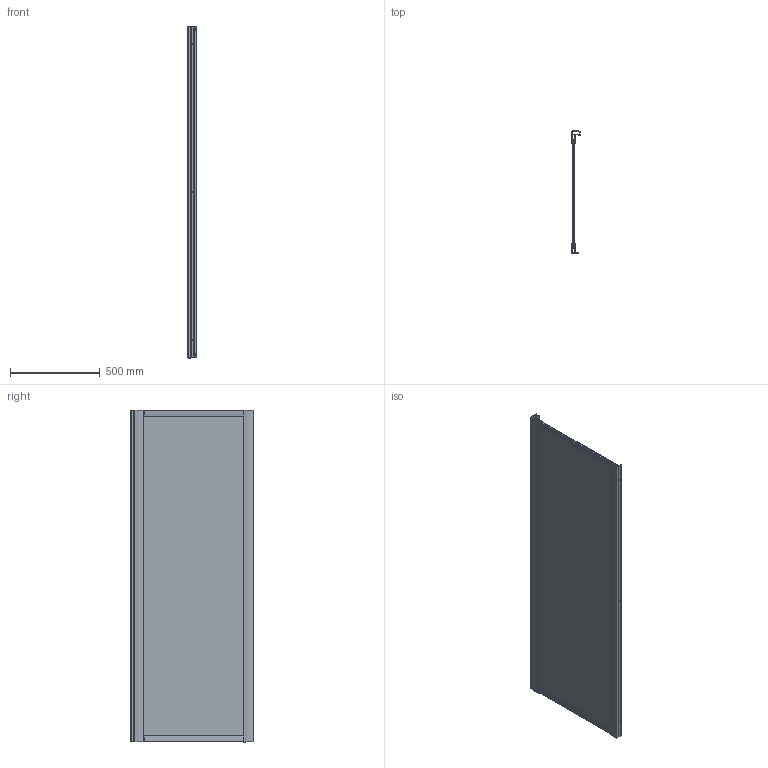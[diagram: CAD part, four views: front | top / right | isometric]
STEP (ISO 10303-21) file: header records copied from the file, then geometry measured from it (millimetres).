
FILE_DESCRIPTION(/* description */ ('INSERTO GIUNZIONE BINARIO'),/* implementation_level */ '2;1');
FILE_NAME(/* name */ 'C:\Users\benassi\Desktop\dwg 3D\America tre 2019\America 3 parete fissa 68-76.stp',/* time_stamp */ '2018-07-17T14:59:46+02:00',/* author */ ('benassi'),/* organization */ (''),/* preprocessor_version */ 'ST-DEVELOPER v16.1',/* originating_system */ 'Autodesk Inventor 2016',/* authorisation */ '');
FILE_SCHEMA (('AUTOMOTIVE_DESIGN { 1 0 10303 214 3 1 1 }'));
Length unit declared in the file: millimetre
Products named in the file (11): 10000008458; 10000008457; 10000021339; 10000021326; 10000021106; 10000021304; 02031032; 10000013432; 10000013433; 10000013434; 10000021325
Assembly tree (19 placements, depth 3):
  10000021325
    10000008458  x2
    10000008457  x2
    10000021339  x2
    10000021326
    10000021106  x2
    10000021304
    02031032
    10000013434  x6
      10000013432
      10000013433
Bounding box: 51.33 x 679.87 x 1850 mm (x, y, z)
Volume: 4664001.1 mm3; surface area: 4766096.6 mm2
Topology: 23 solids, 23 shells, 1081 faces, 2876 edges, 1877 vertices
Faces by surface type: plane 561, cylinder 446, cone 38, torus 18, sphere 12, bspline 6
Full cylindrical faces by diameter (mm): 3.1 x4, 3.9 x6, 4 x10, 4.5 x4, 5 x3, 6.3 x6, 7.3 x6, 7.6 x12, 9 x6
Entity records: 17446 total; most frequent: CARTESIAN_POINT 3310, DIRECTION 2990, ORIENTED_EDGE 2780, EDGE_CURVE 1390, AXIS2_PLACEMENT_3D 1064, VERTEX_POINT 926, LINE 862, VECTOR 862
